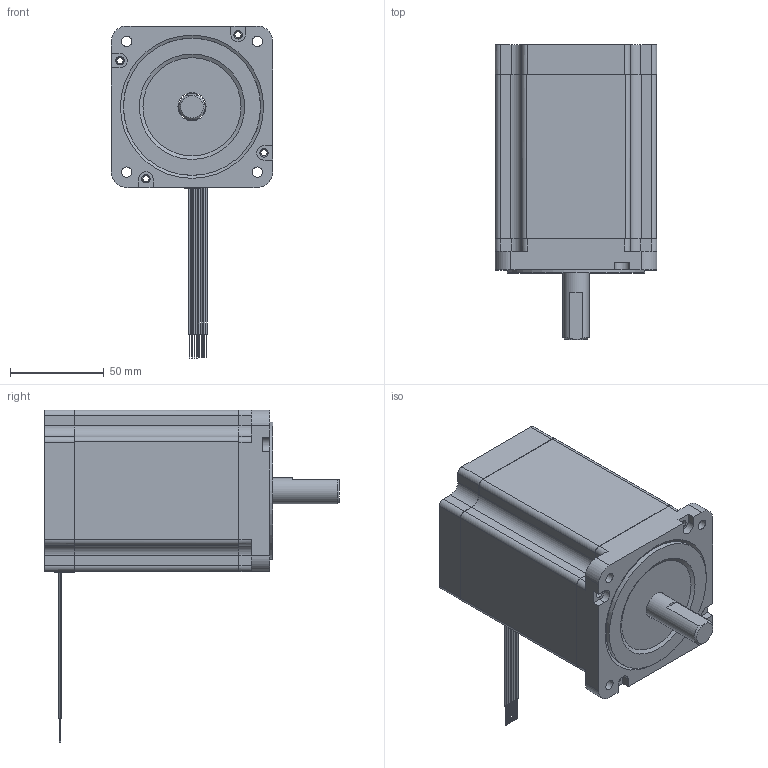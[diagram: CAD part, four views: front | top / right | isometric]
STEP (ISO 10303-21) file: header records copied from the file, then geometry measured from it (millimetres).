
FILE_DESCRIPTION( ('This file contains a STEP AP42 implementation' ,'as created by ZW3D STEP Interface translator.' ,'') ,'2;1' );
FILE_NAME( '34H2120-45-4A-XXX.stp' ,'26 115.141538', (''), ('ZWCAD Software Co.'), 'Version 1.0', 'ZW3D to STEP translator', '' );
FILE_SCHEMA(('AUTOMOTIVE_DESIGN { 1 0 10303 214 1 1 1 1 }'));
Length unit declared in the file: millimetre
Products named in the file (1): 0
Bounding box: 86 x 157 x 176.75 mm (x, y, z)
Volume: 287489.7 mm3; surface area: 117926.4 mm2
Topology: 6 solids, 6 shells, 302 faces, 742 edges, 487 vertices
Faces by surface type: plane 164, cylinder 134, cone 4
Full cylindrical faces by diameter (mm): 3.3 x4, 4.5 x4, 5.08 x4, 5.5 x4, 14 x1, 15 x2, 36 x1, 42 x2, 52.27 x1, 52.273 x1, 73 x1, 78.679 x1, 80 x2
Entity records: 9357 total; most frequent: DIRECTION 1626, CARTESIAN_POINT 1589, ORIENTED_EDGE 1484, EDGE_CURVE 742, AXIS2_PLACEMENT_3D 604, VERTEX_POINT 487, VECTOR 418, LINE 418
